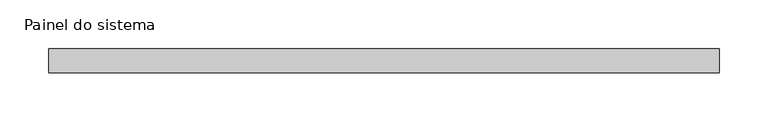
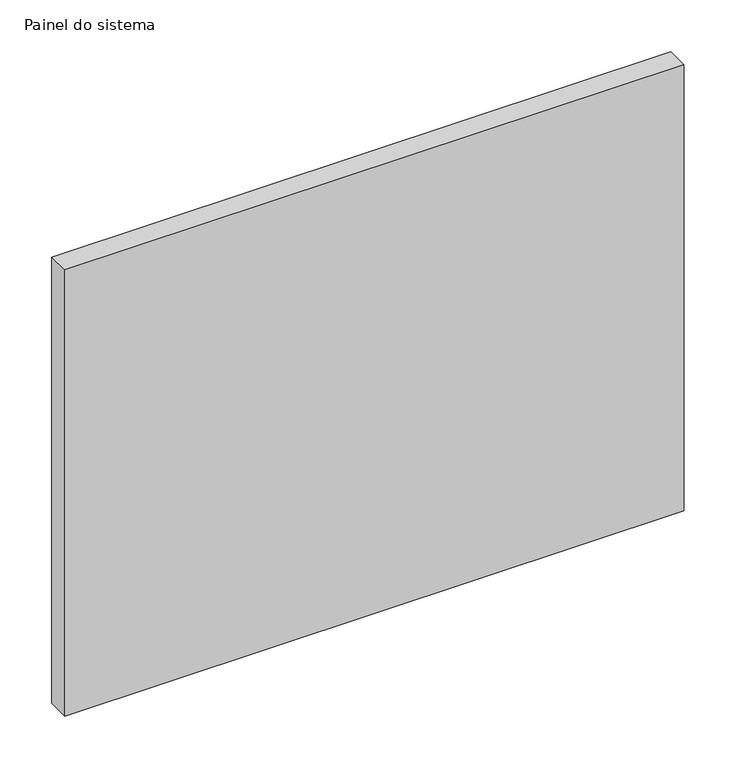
"""IFC4 building model written with IfcOpenShell, lengths in millimetres: plate geometry, Painel do sistema : Envidraçado."""

from ifc_helpers import new_model, si_unit, origin, origin_with_axes, place, context, project, spatial, polyline, outline, extrude, source, transform, mapped, element, save


def painel_do_sistema_bcbd0a65(model_context):
    return source(origin(), model_context, "Body", "SweptSolid", [
        extrude(outline(polyline([(344.6997711, 24.5), (-344.6997711, 24.5), (-344.6997711, 49.5), (344.6997711, 49.5), (344.6997711, 24.5)])), origin_with_axes(), (0.0, 0.0, 1.0), 525.0),
    ])


if __name__ == "__main__":
    model = new_model("IFC4")
    model_context = context("Model", 3, world=origin())
    ifc_project = project(units=[si_unit("LENGTHUNIT", "METRE", prefix="MILLI")], contexts=[model_context])
    site = spatial("IfcSite", under=ifc_project)
    building = spatial("IfcBuilding", under=site)
    placement = place(None, origin())
    painel_do_sistema_shape = painel_do_sistema_bcbd0a65(model_context)
    element("IfcPlate", 1, ObjectType="Painel do sistema : Envidraçado", at=placement, inside=building, context=model_context, shape_type="MappedRepresentation", body=[
        mapped(painel_do_sistema_shape, transform((0.0, 0.0, 0.0), x_axis=(1.0, 0.0, 0.0), y_axis=(0.0, 1.0, 0.0), z_axis=(0.0, 0.0, 1.0))),
    ])
    save(model, "model.ifc")
